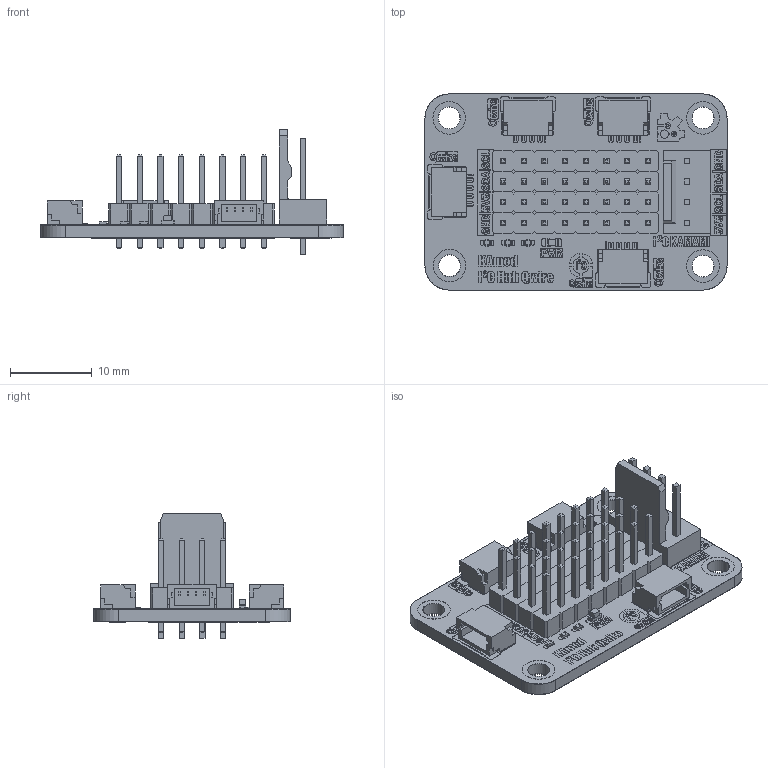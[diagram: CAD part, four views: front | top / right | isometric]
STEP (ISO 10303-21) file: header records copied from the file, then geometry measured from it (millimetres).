
FILE_DESCRIPTION(('KiCad electronic assembly'),'2;1');
FILE_NAME('I2C HUB Qwire.step','2025-12-26T20:14:23',('Pcbnew'),('Kicad' ),'Open CASCADE STEP processor 7.9','KiCad to STEP converter', 'Unknown');
FILE_SCHEMA(('AUTOMOTIVE_DESIGN { 1 0 10303 214 1 1 1 1 }'));
Length unit declared in the file: millimetre
Products named in the file (12): I2C HUB Qwire 1; R_0402_1005Metric; PinHeader_1x08_P2.54mm_Vertical; 22-27-2041; SOLID; COMPOUND; SPARKFUN_QWIIC_RIGHT_ANGLE; LED_0603_1608Metric; I2C HUB Qwire_pad; I2C HUB Qwire_silkscreen; I2C HUB Qwire_soldermask; I2C HUB Qwire_PCB
Assembly tree (19 placements, depth 3):
  I2C HUB Qwire 1
    R_0402_1005Metric  x3
    PinHeader_1x08_P2.54mm_Vertical  x4
    22-27-2041
      SOLID
      COMPOUND
    SPARKFUN_QWIIC_RIGHT_ANGLE  x4
    LED_0603_1608Metric
    I2C HUB Qwire_pad
    I2C HUB Qwire_silkscreen
    I2C HUB Qwire_soldermask
    I2C HUB Qwire_PCB
Bounding box: 37.06 x 24.08 x 15.26 mm (x, y, z)
Volume: 2334.9 mm3; surface area: 7379.6 mm2
Topology: 171 solids, 278 shells, 2390 faces, 9977 edges, 8129 vertices
Faces by surface type: plane 1939, cylinder 451
Full cylindrical faces by diameter (mm): 0.95 x108, 1 x72, 1.7 x70, 2.65 x12, 2.7 x8, 4 x8
Entity records: 82368 total; most frequent: CARTESIAN_POINT 15885, DIRECTION 12378, ORIENTED_EDGE 10677, EDGE_CURVE 7695, VERTEX_POINT 6675, LINE 6026, VECTOR 6026, AXIS2_PLACEMENT_3D 3176
